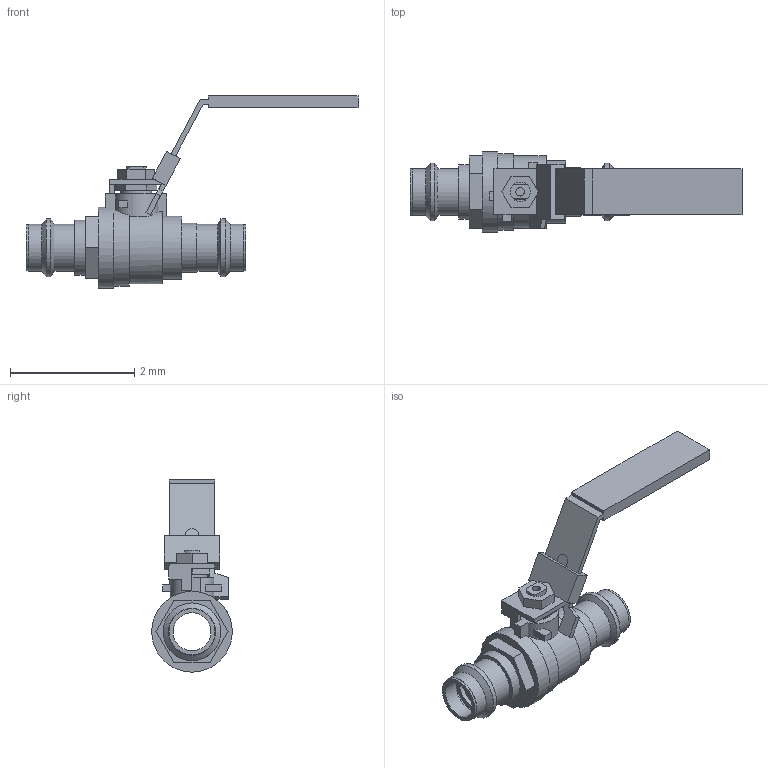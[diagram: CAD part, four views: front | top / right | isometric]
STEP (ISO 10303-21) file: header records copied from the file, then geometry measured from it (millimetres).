
FILE_DESCRIPTION(('Open CASCADE Model'),'2;1');
FILE_NAME('Open CASCADE Shape Model','2022-07-29T13:01:50',('Author'),( 'Open CASCADE'),'Open CASCADE STEP processor 7.3','Open CASCADE 7.3' ,'Unknown');
FILE_SCHEMA(('AUTOMOTIVE_DESIGN { 1 0 10303 214 1 1 1 1 }'));
Length unit declared in the file: millimetre
Products named in the file (10): Open CASCADE STEP translator 7.3 1; Open CASCADE STEP translator 7.3 1.1; Open CASCADE STEP translator 7.3 1.2; Open CASCADE STEP translator 7.3 1.3; Open CASCADE STEP translator 7.3 1.4; Open CASCADE STEP translator 7.3 1.5; Open CASCADE STEP translator 7.3 1.6; Open CASCADE STEP translator 7.3 1.7; Open CASCADE STEP translator 7.3 1.8; Open CASCADE STEP translator 7.3 1.9
Assembly tree (9 placements, depth 2):
  Open CASCADE STEP translator 7.3 1
    Open CASCADE STEP translator 7.3 1.1
    Open CASCADE STEP translator 7.3 1.2
    Open CASCADE STEP translator 7.3 1.3
    Open CASCADE STEP translator 7.3 1.4
    Open CASCADE STEP translator 7.3 1.5
    Open CASCADE STEP translator 7.3 1.6
    Open CASCADE STEP translator 7.3 1.7
    Open CASCADE STEP translator 7.3 1.8
    Open CASCADE STEP translator 7.3 1.9
Bounding box: 5.35 x 1.3 x 3.1 mm (x, y, z)
Volume: 2.3 mm3; surface area: 34.1 mm2
Topology: 5 solids, 9 shells, 159 faces, 431 edges, 292 vertices
Faces by surface type: plane 117, cylinder 36, cone 6
Full cylindrical faces by diameter (mm): 0.135 x1, 0.5 x1, 0.612 x5, 0.743 x2, 0.755 x4, 0.756 x4, 0.79 x1, 0.885 x1, 0.93 x2, 1.013 x1, 1.3 x1
Entity records: 11028 total; most frequent: CARTESIAN_POINT 2211, DIRECTION 1655, LINE 1031, VECTOR 1031, ORIENTED_EDGE 846, PCURVE 846, DEFINITIONAL_REPRESENTATION 846, EDGE_CURVE 431
